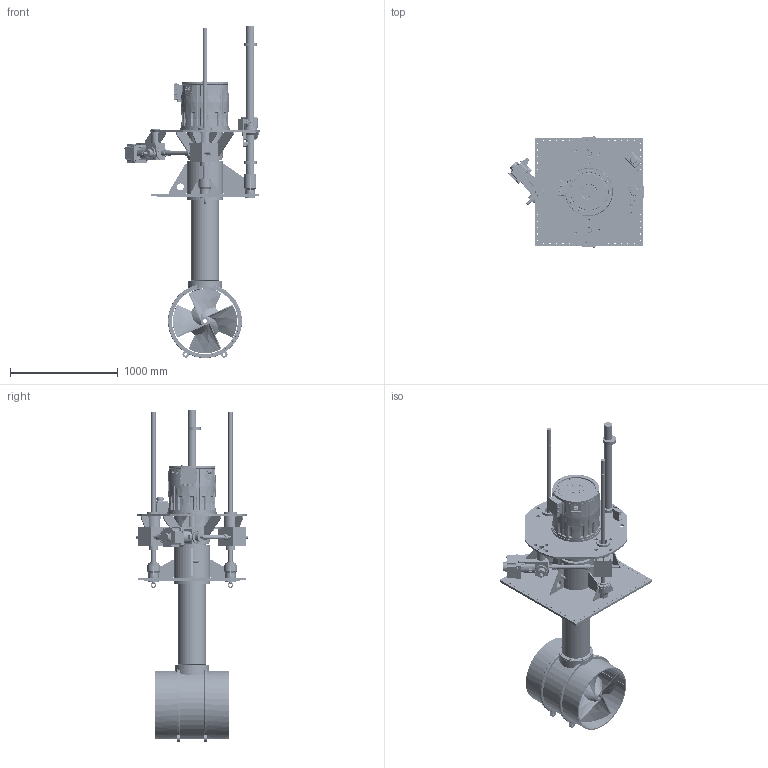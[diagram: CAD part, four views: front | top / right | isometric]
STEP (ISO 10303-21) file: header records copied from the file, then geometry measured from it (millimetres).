
FILE_DESCRIPTION(/* description */ (''),/* implementation_level */ '2;1');
FILE_NAME(/* name */ 'Q:\THRUSTERS\THRUSTER SALES & SUPPORT DOCS\THRUSTER Sales\E-V\E-0600-V\E-0600-V-DEPLOYED.stp',/* time_stamp */ '2021-02-03T16:53:24+00:00',/* author */ ('Barney.Webborn'),/* organization */ (''),/* preprocessor_version */ 'ST-DEVELOPER v17.2',/* originating_system */ 'Autodesk Inventor 2019',/* authorisation */ '');
FILE_SCHEMA (('AUTOMOTIVE_DESIGN { 1 0 10303 214 3 1 1 }'));
Products named in the file (1): E-0600-V_Shrinkwrap_1
Bounding box: 1256.14 x 1041.57 x 3076.2 mm (x, y, z)
Volume: 165899405.2 mm3; surface area: 16548395.8 mm2
Topology: 6 solids, 6 shells, 7982 faces, 21600 edges, 13841 vertices
Faces by surface type: plane 3500, cylinder 1940, bspline 1372, cone 641, torus 421, sphere 108
Full cylindrical faces by diameter (mm): 3 x6, 4.95 x4, 5.5 x4, 7 x8, 7.2 x2, 8 x9, 8.376 x1, 8.5 x11, 9 x4, 9.43 x7, 10 x12, 12 x21, 12.4 x12, 12.5 x24, 13 x101, 13.44 x1, 13.5 x4, 13.9 x3, 14 x2, 14.287 x1, 14.3 x1, 14.376 x2, 14.5 x1, 15 x15, 15.24 x12, 15.25 x4, 15.3 x1, 16 x15, 16.9 x2, 17 x10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
Entity records: 343227 total; most frequent: CARTESIAN_POINT 139896, ORIENTED_EDGE 42798, DIRECTION 38359, EDGE_CURVE 21399, AXIS2_PLACEMENT_3D 14202, VERTEX_POINT 13841, LINE 9955, VECTOR 9955
